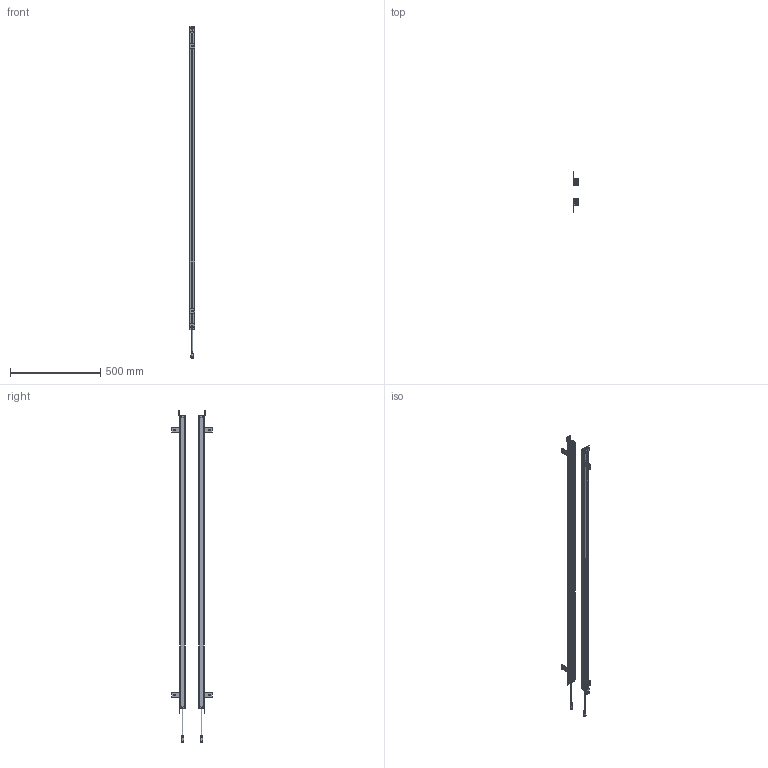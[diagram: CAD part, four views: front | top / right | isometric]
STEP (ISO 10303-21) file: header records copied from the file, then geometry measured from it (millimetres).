
FILE_DESCRIPTION(/* description */ (''),/* implementation_level */ '2;1');
FILE_NAME(/* name */ '4040（29x30).stp',/* time_stamp */ '2023-05-04T09:18:56+08:00',/* author */ (''),/* organization */ (''),/* preprocessor_version */ 'ST-DEVELOPER v16.7',/* originating_system */ 'SIEMENS PLM Software NX 12.0',/* authorisation */ '');
FILE_SCHEMA (('AUTOMOTIVE_DESIGN { 1 0 10303 214 3 1 1 1 }'));
Products named in the file (1): 2640（29x30__stp111_stp
Bounding box: 32.03 x 223.99 x 1841 mm (x, y, z)
Volume: 995689.6 mm3; surface area: 1024077.2 mm2
Topology: 34 solids, 34 shells, 1610 faces, 4267 edges, 2771 vertices
Faces by surface type: plane 750, cylinder 648, bspline 88, sphere 36, cone 36, torus 32, extrusion 20
Full cylindrical faces by diameter (mm): 1.533 x6, 4.4 x4, 9 x2, 12.5 x2
Entity records: 56427 total; most frequent: CARTESIAN_POINT 16064, DIRECTION 8330, ORIENTED_EDGE 8324, EDGE_CURVE 4162, AXIS2_PLACEMENT_3D 2918, VERTEX_POINT 2696, VECTOR 2494, LINE 2474
